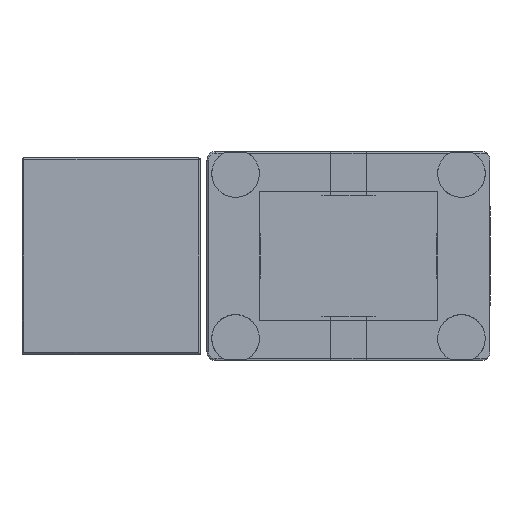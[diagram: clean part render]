
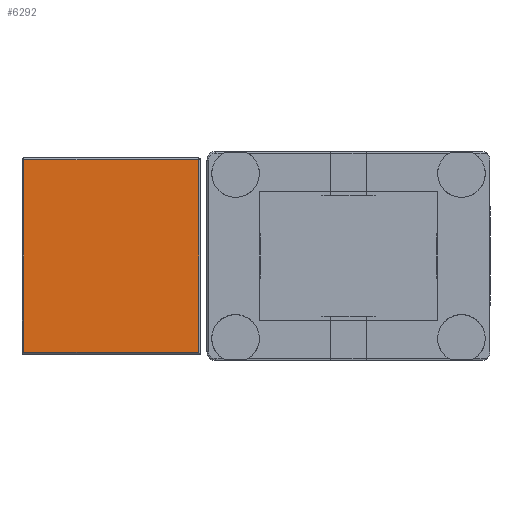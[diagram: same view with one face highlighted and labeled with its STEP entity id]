
A CAD part, left-side view. The second image highlights one B-rep face of the part: STEP entity #6292.
In plain terms, the highlighted planar face has unit normal (-1, 0, 0).
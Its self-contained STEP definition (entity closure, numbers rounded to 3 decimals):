
#801 = VERTEX_POINT ( 'NONE', #7860 ) ;
#993 = ORIENTED_EDGE ( 'NONE', *, *, #5695, .T. ) ;
#1103 = CARTESIAN_POINT ( 'NONE',  ( -38., 31.95, -10.8 ) ) ;
#1531 = DIRECTION ( 'NONE',  ( 0., 1., 0. ) ) ;
#1927 = EDGE_LOOP ( 'NONE', ( #7014, #3243, #993, #5835 ) ) ;
#2586 = LINE ( 'NONE', #4986, #5088 ) ;
#2828 = CARTESIAN_POINT ( 'NONE',  ( -38., 49.75, -10. ) ) ;
#2852 = PLANE ( 'NONE',  #3746 ) ;
#3243 = ORIENTED_EDGE ( 'NONE', *, *, #7926, .T. ) ;
#3350 = VECTOR ( 'NONE', #1531, 1000. ) ;
#3363 = VERTEX_POINT ( 'NONE', #5368 ) ;
#3398 = CARTESIAN_POINT ( 'NONE',  ( -38., 51.55, -10. ) ) ;
#3650 = CARTESIAN_POINT ( 'NONE',  ( -38., 51.75, 10.8 ) ) ;
#3746 = AXIS2_PLACEMENT_3D ( 'NONE', #2828, #5691, #4319 ) ;
#4036 = DIRECTION ( 'NONE',  ( 0., 0., -1. ) ) ;
#4319 = DIRECTION ( 'NONE',  ( 0., 0., 1. ) ) ;
#4545 = EDGE_CURVE ( 'NONE', #8104, #3363, #9257, .T. ) ;
#4692 = CARTESIAN_POINT ( 'NONE',  ( -38., 51.55, 10.8 ) ) ;
#4748 = DIRECTION ( 'NONE',  ( 0., 0., 1. ) ) ;
#4986 = CARTESIAN_POINT ( 'NONE',  ( -38., 31.75, -10.8 ) ) ;
#5088 = VECTOR ( 'NONE', #7254, 1000. ) ;
#5368 = CARTESIAN_POINT ( 'NONE',  ( -38., 51.55, -10.8 ) ) ;
#5691 = DIRECTION ( 'NONE',  ( -1., 0., 0. ) ) ;
#5695 = EDGE_CURVE ( 'NONE', #5806, #801, #6994, .T. ) ;
#5806 = VERTEX_POINT ( 'NONE', #1103 ) ;
#5835 = ORIENTED_EDGE ( 'NONE', *, *, #9025, .T. ) ;
#5854 = LINE ( 'NONE', #3650, #3350 ) ;
#6197 = CARTESIAN_POINT ( 'NONE',  ( -38., 31.95, -10. ) ) ;
#6292 = ADVANCED_FACE ( 'NONE', ( #7034 ), #2852, .T. ) ;
#6994 = LINE ( 'NONE', #6197, #8901 ) ;
#7014 = ORIENTED_EDGE ( 'NONE', *, *, #4545, .T. ) ;
#7034 = FACE_OUTER_BOUND ( 'NONE', #1927, .T. ) ;
#7254 = DIRECTION ( 'NONE',  ( 0., -1., 0. ) ) ;
#7348 = VECTOR ( 'NONE', #4036, 1000. ) ;
#7860 = CARTESIAN_POINT ( 'NONE',  ( -38., 31.95, 10.8 ) ) ;
#7926 = EDGE_CURVE ( 'NONE', #3363, #5806, #2586, .T. ) ;
#8104 = VERTEX_POINT ( 'NONE', #4692 ) ;
#8901 = VECTOR ( 'NONE', #4748, 1000. ) ;
#9025 = EDGE_CURVE ( 'NONE', #801, #8104, #5854, .T. ) ;
#9257 = LINE ( 'NONE', #3398, #7348 ) ;
